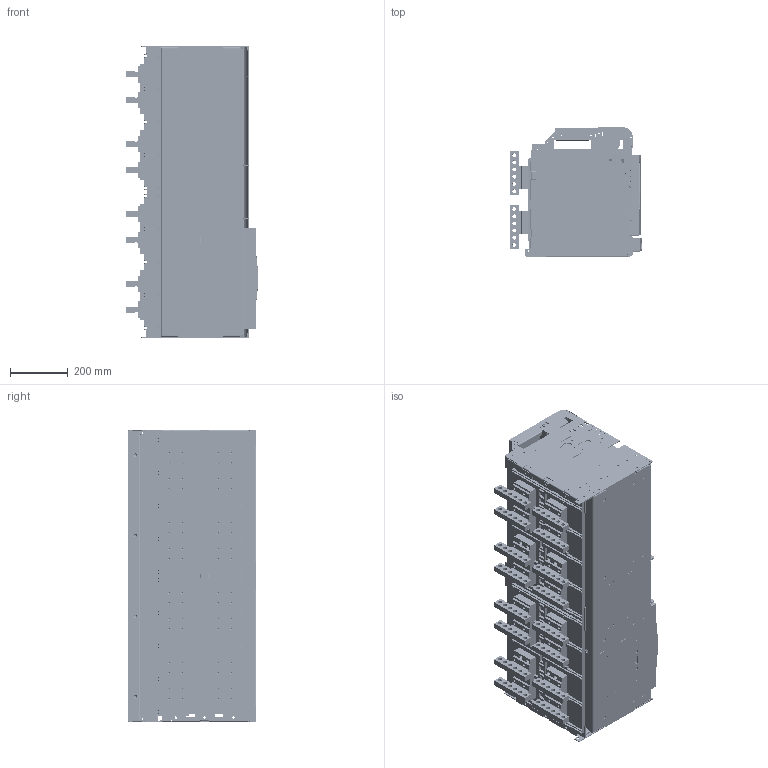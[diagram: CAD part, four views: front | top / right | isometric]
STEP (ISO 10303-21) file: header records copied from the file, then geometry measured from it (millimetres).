
FILE_DESCRIPTION (( 'STEP AP214' ), '1' );
FILE_NAME ('OptiMat A-S6-B-6300-4P-D-V.STEP', '2025-02-10T10:15:33', ( '' ), ( '' ), 'SwSTEP 2.0', 'SolidWorks 2018', '' );
FILE_SCHEMA (( 'AUTOMOTIVE_DESIGN' ));
Length unit declared in the file: millimetre
Products named in the file (1): OptiMat A-S6-B-6300-4P-D-V
Bounding box: 458.5 x 447.5 x 1016 mm (x, y, z)
Volume: 126327914.3 mm3; surface area: 4404977.7 mm2
Topology: 5 solids, 106 shells, 7154 faces, 18361 edges, 11743 vertices
Faces by surface type: plane 3687, cylinder 2644, cone 392, bspline 189, torus 186, sphere 56
Entity records: 307076 total; most frequent: CARTESIAN_POINT 57527, DIRECTION 36924, ORIENTED_EDGE 36366, EDGE_CURVE 18183, AXIS2_PLACEMENT_3D 12736, VERTEX_POINT 11737, LINE 11452, VECTOR 11452
